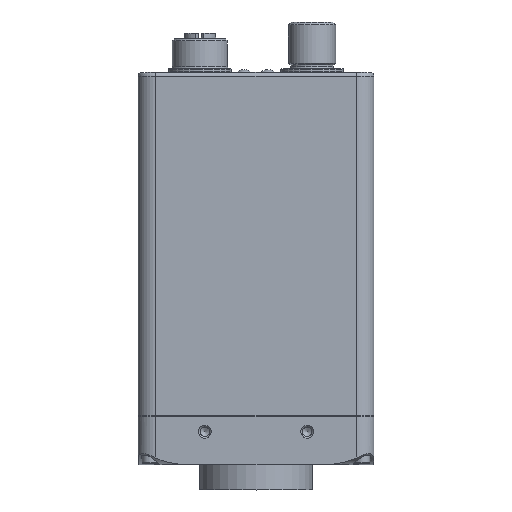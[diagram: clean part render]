
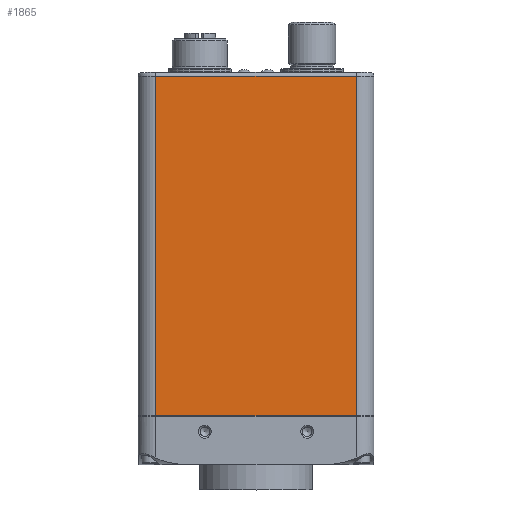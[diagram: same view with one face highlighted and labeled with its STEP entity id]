
A CAD part, top view. The second image highlights one B-rep face of the part: STEP entity #1865.
In plain terms, the highlighted planar face has unit normal (0, 0, 1).
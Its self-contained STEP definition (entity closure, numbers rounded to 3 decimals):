
#1865 = ADVANCED_FACE( '', ( #5188 ), #5189, .F. );
#5188 = FACE_OUTER_BOUND( '', #10898, .T. );
#5189 = PLANE( '', #10899 );
#10898 = EDGE_LOOP( '', ( #18446, #18447, #18448, #18449 ) );
#10899 = AXIS2_PLACEMENT_3D( '', #18450, #18451, #18452 );
#18446 = ORIENTED_EDGE( '', *, *, #31036, .F. );
#18447 = ORIENTED_EDGE( '', *, *, #31037, .T. );
#18448 = ORIENTED_EDGE( '', *, *, #31038, .T. );
#18449 = ORIENTED_EDGE( '', *, *, #31039, .T. );
#18450 = CARTESIAN_POINT( '', ( -25.488, 87.375, 29.988 ) );
#18451 = DIRECTION( '', ( 0., 0., -1. ) );
#18452 = DIRECTION( '', ( 0., 1., 0. ) );
#31036 = EDGE_CURVE( '', #36079, #36080, #36081, .T. );
#31037 = EDGE_CURVE( '', #36079, #36082, #36083, .F. );
#31038 = EDGE_CURVE( '', #36082, #36084, #36085, .T. );
#31039 = EDGE_CURVE( '', #36084, #36080, #36086, .T. );
#36079 = VERTEX_POINT( '', #43756 );
#36080 = VERTEX_POINT( '', #43757 );
#36081 = LINE( '', #43758, #43759 );
#36082 = VERTEX_POINT( '', #43760 );
#36083 = LINE( '', #43761, #43762 );
#36084 = VERTEX_POINT( '', #43763 );
#36085 = LINE( '', #43764, #43765 );
#36086 = LINE( '', #43766, #43767 );
#43756 = CARTESIAN_POINT( '', ( 25.488, 86.375, 29.988 ) );
#43757 = CARTESIAN_POINT( '', ( 25.488, 0.075, 29.988 ) );
#43758 = CARTESIAN_POINT( '', ( 25.488, 87.375, 29.988 ) );
#43759 = VECTOR( '', #53827, 1000. );
#43760 = CARTESIAN_POINT( '', ( -25.488, 86.375, 29.988 ) );
#43761 = CARTESIAN_POINT( '', ( -25.488, 86.375, 29.988 ) );
#43762 = VECTOR( '', #53828, 1000. );
#43763 = CARTESIAN_POINT( '', ( -25.488, 0.075, 29.988 ) );
#43764 = CARTESIAN_POINT( '', ( -25.488, 87.375, 29.988 ) );
#43765 = VECTOR( '', #53829, 1000. );
#43766 = CARTESIAN_POINT( '', ( -25.488, 0.075, 29.988 ) );
#43767 = VECTOR( '', #53830, 1000. );
#53827 = DIRECTION( '', ( 0., -1., 0. ) );
#53828 = DIRECTION( '', ( 1., 0., 0. ) );
#53829 = DIRECTION( '', ( 0., -1., 0. ) );
#53830 = DIRECTION( '', ( 1., 0., 0. ) );
